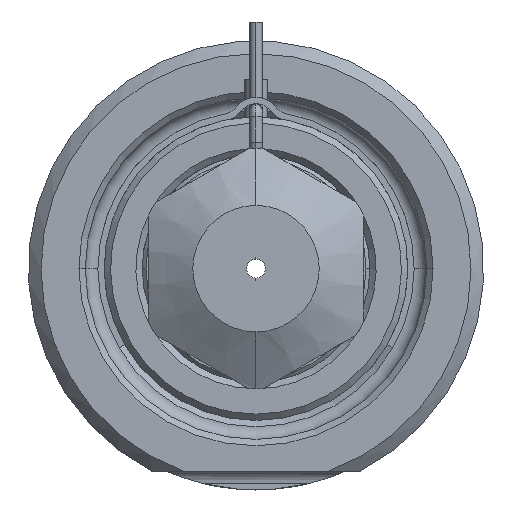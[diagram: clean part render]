
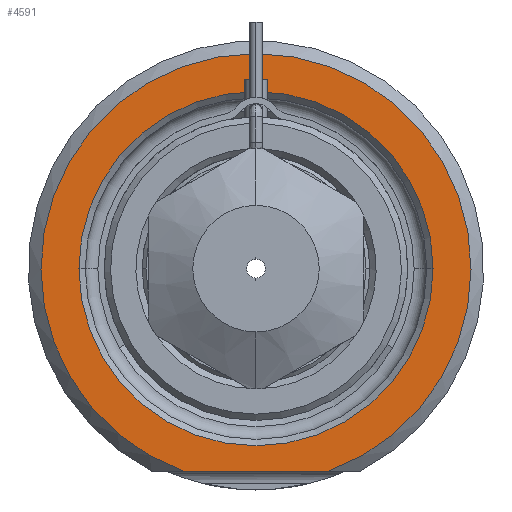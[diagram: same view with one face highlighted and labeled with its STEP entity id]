
A CAD part, front view. The second image highlights one B-rep face of the part: STEP entity #4591.
In plain terms, the highlighted planar face has unit normal (0, -1, 0).
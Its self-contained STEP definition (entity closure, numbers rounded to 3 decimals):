
#1362=DIRECTION('',(1.,0.,0.));
#1363=VECTOR('',#1362,11.489);
#1364=CARTESIAN_POINT('',(-5.745,0.,-16.));
#1365=LINE('',#1364,#1363);
#1366=CARTESIAN_POINT('',(0.,0.,0.));
#1367=DIRECTION('',(0.,1.,0.));
#1368=DIRECTION('',(-1.,0.,0.));
#1369=AXIS2_PLACEMENT_3D('',#1366,#1367,#1368);
#1371=CARTESIAN_POINT('',(0.,0.,0.));
#1372=DIRECTION('',(0.,1.,0.));
#1373=DIRECTION('',(1.,0.,0.));
#1374=AXIS2_PLACEMENT_3D('',#1371,#1372,#1373);
#1478=CARTESIAN_POINT('',(0.,0.,0.));
#1479=DIRECTION('',(0.,-1.,0.));
#1480=DIRECTION('',(0.338,0.,-0.941));
#1481=AXIS2_PLACEMENT_3D('',#1478,#1479,#1480);
#2521=CARTESIAN_POINT('',(-14.,0.,0.));
#2522=CARTESIAN_POINT('',(14.,0.,0.));
#2523=VERTEX_POINT('',#2521);
#2524=VERTEX_POINT('',#2522);
#2571=CARTESIAN_POINT('',(-5.745,0.,-16.));
#2572=CARTESIAN_POINT('',(5.745,0.,-16.));
#2573=VERTEX_POINT('',#2571);
#2574=VERTEX_POINT('',#2572);
#4575=CARTESIAN_POINT('',(0.,0.,0.));
#4576=DIRECTION('',(0.,-1.,0.));
#4577=DIRECTION('',(1.,0.,0.));
#4578=AXIS2_PLACEMENT_3D('',#4575,#4576,#4577);
#4579=PLANE('',#4578);
#4581=ORIENTED_EDGE('',*,*,#4580,.F.);
#4583=ORIENTED_EDGE('',*,*,#4582,.F.);
#4584=EDGE_LOOP('',(#4581,#4583));
#4585=FACE_OUTER_BOUND('',#4584,.F.);
#4587=ORIENTED_EDGE('',*,*,#4586,.F.);
#4588=ORIENTED_EDGE('',*,*,#4565,.F.);
#4589=EDGE_LOOP('',(#4587,#4588));
#4590=FACE_BOUND('',#4589,.F.);
#4591=ADVANCED_FACE('',(#4585,#4590),#4579,.T.);
#1370=CIRCLE('',#1369,14.);
#1375=CIRCLE('',#1374,14.);
#1482=CIRCLE('',#1481,17.);
#4565=EDGE_CURVE('',#2524,#2523,#1375,.T.);
#4580=EDGE_CURVE('',#2573,#2574,#1365,.T.);
#4582=EDGE_CURVE('',#2574,#2573,#1482,.T.);
#4586=EDGE_CURVE('',#2523,#2524,#1370,.T.);
